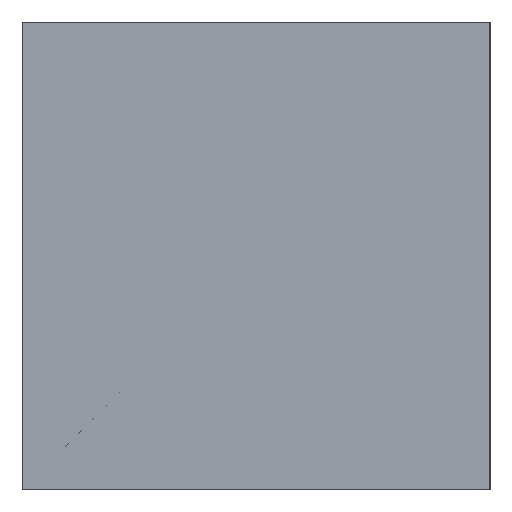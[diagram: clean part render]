
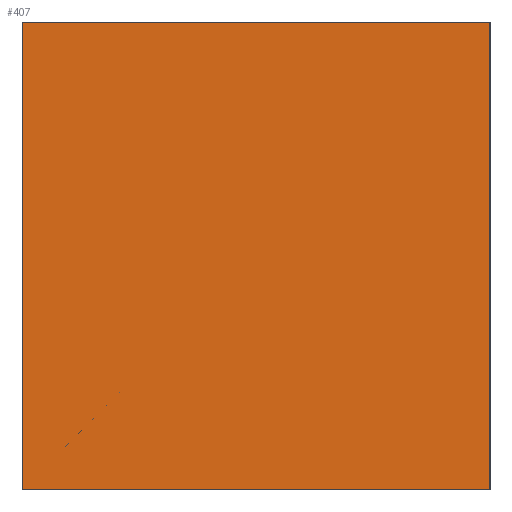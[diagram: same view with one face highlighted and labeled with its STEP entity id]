
A CAD part, left-side view. The second image highlights one B-rep face of the part: STEP entity #407.
In plain terms, the highlighted planar face has unit normal (-1, 0, 0).
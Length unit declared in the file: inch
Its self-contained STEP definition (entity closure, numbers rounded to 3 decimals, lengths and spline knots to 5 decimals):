
#16 = VERTEX_POINT ( 'NONE', #85 ) ;
#28 = PLANE ( 'NONE',  #69 ) ;
#32 = CARTESIAN_POINT ( 'NONE',  ( -0.625, 0.75, 0.375 ) ) ;
#39 = EDGE_CURVE ( 'NONE', #16, #447, #305, .T. ) ;
#43 = DIRECTION ( 'NONE',  ( 1., 0., 0. ) ) ;
#47 = DIRECTION ( 'NONE',  ( 0., 0., -1. ) ) ;
#55 = CARTESIAN_POINT ( 'NONE',  ( -0.625, 0., -0.375 ) ) ;
#69 = AXIS2_PLACEMENT_3D ( 'NONE', #32, #43, #47 ) ;
#71 = EDGE_LOOP ( 'NONE', ( #197, #216, #279, #350 ) ) ;
#74 = CARTESIAN_POINT ( 'NONE',  ( -0.625, 0., 0.375 ) ) ;
#85 = CARTESIAN_POINT ( 'NONE',  ( -0.625, 0.75, -0.375 ) ) ;
#93 = EDGE_CURVE ( 'NONE', #177, #460, #189, .T. ) ;
#143 = DIRECTION ( 'NONE',  ( 0., -1., 0. ) ) ;
#154 = LINE ( 'NONE', #332, #442 ) ;
#171 = VECTOR ( 'NONE', #180, 39.37008 ) ;
#177 = VERTEX_POINT ( 'NONE', #254 ) ;
#180 = DIRECTION ( 'NONE',  ( 0., 0., 1. ) ) ;
#189 = LINE ( 'NONE', #389, #367 ) ;
#197 = ORIENTED_EDGE ( 'NONE', *, *, #200, .T. ) ;
#200 = EDGE_CURVE ( 'NONE', #447, #460, #154, .T. ) ;
#211 = EDGE_CURVE ( 'NONE', #16, #177, #459, .T. ) ;
#216 = ORIENTED_EDGE ( 'NONE', *, *, #93, .F. ) ;
#234 = DIRECTION ( 'NONE',  ( 0., -1., 0. ) ) ;
#247 = CARTESIAN_POINT ( 'NONE',  ( -0.625, 0.75, 0.375 ) ) ;
#254 = CARTESIAN_POINT ( 'NONE',  ( -0.625, 0.75, 0.375 ) ) ;
#279 = ORIENTED_EDGE ( 'NONE', *, *, #211, .F. ) ;
#305 = LINE ( 'NONE', #444, #348 ) ;
#329 = DIRECTION ( 'NONE',  ( 0., 0., 1. ) ) ;
#332 = CARTESIAN_POINT ( 'NONE',  ( -0.625, 0., 0.375 ) ) ;
#348 = VECTOR ( 'NONE', #234, 39.37008 ) ;
#350 = ORIENTED_EDGE ( 'NONE', *, *, #39, .T. ) ;
#367 = VECTOR ( 'NONE', #143, 39.37008 ) ;
#389 = CARTESIAN_POINT ( 'NONE',  ( -0.625, 0.75, 0.375 ) ) ;
#407 = ADVANCED_FACE ( 'NONE', ( #436 ), #28, .F. ) ;
#436 = FACE_OUTER_BOUND ( 'NONE', #71, .T. ) ;
#442 = VECTOR ( 'NONE', #329, 39.37008 ) ;
#444 = CARTESIAN_POINT ( 'NONE',  ( -0.625, 0.75, -0.375 ) ) ;
#447 = VERTEX_POINT ( 'NONE', #55 ) ;
#459 = LINE ( 'NONE', #247, #171 ) ;
#460 = VERTEX_POINT ( 'NONE', #74 ) ;
